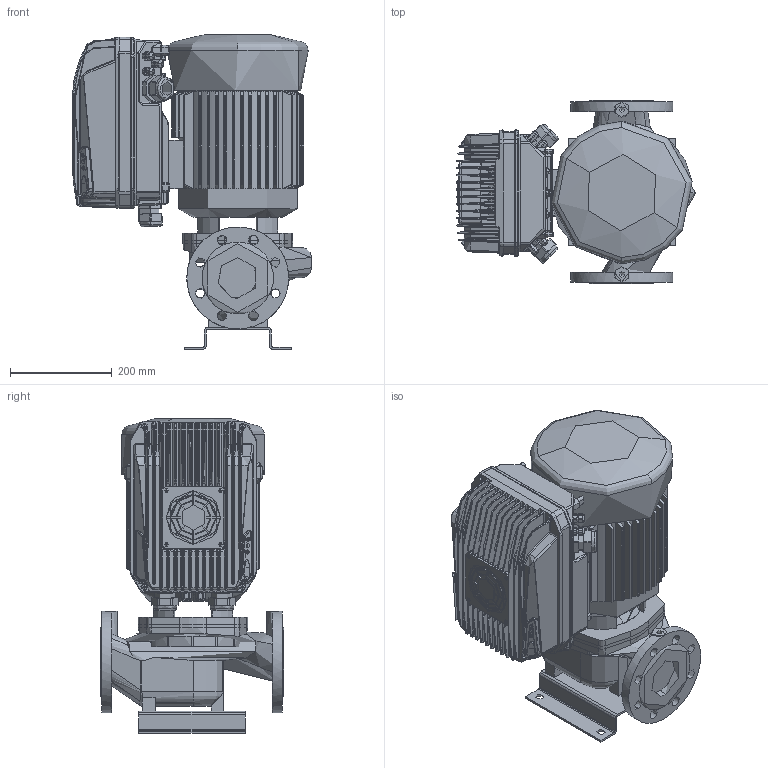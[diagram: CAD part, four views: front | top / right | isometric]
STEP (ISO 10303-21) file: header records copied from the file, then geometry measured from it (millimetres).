
FILE_DESCRIPTION(('STEP AP214'),'1');
FILE_NAME('export.stp','2022-09-07T06:46:48',(' '),(' '),'Spatial InterOp 3D',' ',' ');
FILE_SCHEMA(('AUTOMOTIVE_DESIGN { 1 0 10303 214 1 1 1 1 }'));
Length unit declared in the file: millimetre
Products named in the file (11): V_MOKN132; RU_OKN_132; TSUOJA_OKN_132_133; KYTKOTELO_OKN_100_133; V_Mkp-132_F19; V_EKF19OKN132; W_L80A2MDKP132; Mida_414-418; V_TLL65AB80A1102; V_JALKA35973; V_PPL80A
Assembly tree (10 placements, depth 4):
  W_L80A2MDKP132
    V_Mkp-132_F19
      V_MOKN132
        RU_OKN_132
        TSUOJA_OKN_132_133
        KYTKOTELO_OKN_100_133
      V_EKF19OKN132
    Mida_414-418
    V_TLL65AB80A1102
    V_JALKA35973
    V_PPL80A
Bounding box: 469.7 x 360 x 617.5 mm (x, y, z)
Topology: 55 solids, 60 shells, 6122 faces, 15456 edges, 9367 vertices
Faces by surface type: cylinder 2232, plane 1943, bspline 1219, cone 428, torus 255, sphere 45
Entity records: 504063 total; most frequent: CARTESIAN_POINT 314612, ORIENTED_EDGE 30362, DIRECTION 23498, EDGE_CURVE 15181, VERTEX_POINT 9364, AXIS2_PLACEMENT_3D 8579, STYLED_ITEM 7625, PRESENTATION_STYLE_ASSIGNMENT 7625
